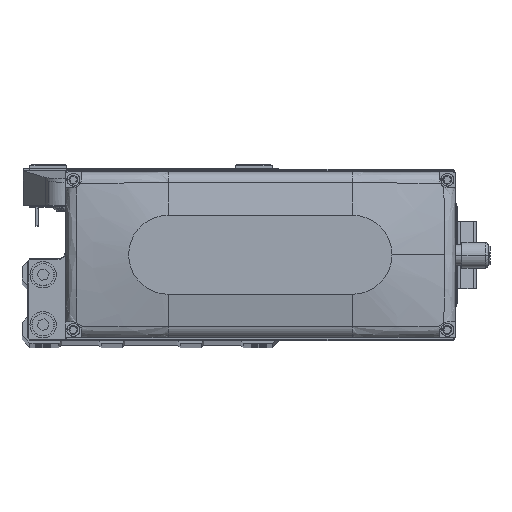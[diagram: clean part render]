
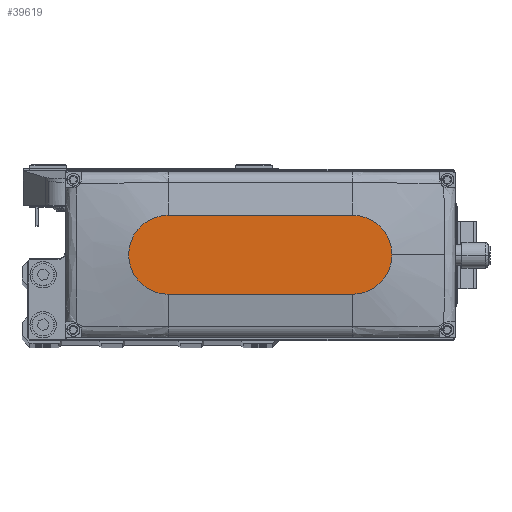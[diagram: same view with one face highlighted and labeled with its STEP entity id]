
A CAD part, top view. The second image highlights one B-rep face of the part: STEP entity #39619.
In plain terms, the highlighted planar face has unit normal (0, 0, 1).
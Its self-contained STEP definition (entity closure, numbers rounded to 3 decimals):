
#1112 = FACE_OUTER_BOUND ( 'NONE', #12557, .T. ) ;
#1825 = CARTESIAN_POINT ( 'NONE',  ( -35., -15., 35. ) ) ;
#2855 = CARTESIAN_POINT ( 'NONE',  ( -35., 15., 35. ) ) ;
#3326 = ORIENTED_EDGE ( 'NONE', *, *, #25744, .T. ) ;
#3568 = EDGE_CURVE ( 'NONE', #27415, #31827, #5936, .T. ) ;
#5936 = LINE ( 'NONE', #20624, #39851 ) ;
#6834 = CIRCLE ( 'NONE', #33700, 15. ) ;
#9095 = DIRECTION ( 'NONE',  ( 1., 0., 0. ) ) ;
#9317 = DIRECTION ( 'NONE',  ( 0., 0., 1. ) ) ;
#10360 = CARTESIAN_POINT ( 'NONE',  ( 35., 0., 35. ) ) ;
#12023 = CARTESIAN_POINT ( 'NONE',  ( 50., 0., 35. ) ) ;
#12156 = DIRECTION ( 'NONE',  ( 1., 0., 0. ) ) ;
#12557 = EDGE_LOOP ( 'NONE', ( #41478, #39975, #41097, #3326, #31155 ) ) ;
#13623 = VERTEX_POINT ( 'NONE', #12023 ) ;
#15767 = PLANE ( 'NONE',  #26029 ) ;
#16439 = VERTEX_POINT ( 'NONE', #20848 ) ;
#16480 = DIRECTION ( 'NONE',  ( 1., 0., 0. ) ) ;
#17984 = EDGE_CURVE ( 'NONE', #30726, #16439, #34713, .T. ) ;
#18153 = CIRCLE ( 'NONE', #45001, 15. ) ;
#19665 = AXIS2_PLACEMENT_3D ( 'NONE', #10360, #25021, #39656 ) ;
#20624 = CARTESIAN_POINT ( 'NONE',  ( -35., 15., 35. ) ) ;
#20848 = CARTESIAN_POINT ( 'NONE',  ( 35., -15., 35. ) ) ;
#23978 = DIRECTION ( 'NONE',  ( 1., 0., 0. ) ) ;
#25021 = DIRECTION ( 'NONE',  ( 0., 0., 1. ) ) ;
#25359 = CARTESIAN_POINT ( 'NONE',  ( -35., -15., 35. ) ) ;
#25744 = EDGE_CURVE ( 'NONE', #16439, #13623, #40351, .T. ) ;
#26029 = AXIS2_PLACEMENT_3D ( 'NONE', #30398, #45068, #12156 ) ;
#26078 = EDGE_CURVE ( 'NONE', #13623, #27415, #18153, .T. ) ;
#27368 = CARTESIAN_POINT ( 'NONE',  ( 35., 0., 35. ) ) ;
#27415 = VERTEX_POINT ( 'NONE', #28567 ) ;
#28567 = CARTESIAN_POINT ( 'NONE',  ( 35., 15., 35. ) ) ;
#28899 = EDGE_CURVE ( 'NONE', #31827, #30726, #6834, .T. ) ;
#30398 = CARTESIAN_POINT ( 'NONE',  ( 0., 0., 35. ) ) ;
#30726 = VERTEX_POINT ( 'NONE', #25359 ) ;
#31155 = ORIENTED_EDGE ( 'NONE', *, *, #26078, .T. ) ;
#31827 = VERTEX_POINT ( 'NONE', #2855 ) ;
#33700 = AXIS2_PLACEMENT_3D ( 'NONE', #42221, #9317, #23978 ) ;
#33714 = VECTOR ( 'NONE', #16480, 1000. ) ;
#34713 = LINE ( 'NONE', #1825, #33714 ) ;
#35248 = DIRECTION ( 'NONE',  ( -1., 0., 0. ) ) ;
#39619 = ADVANCED_FACE ( 'NONE', ( #1112 ), #15767, .T. ) ;
#39656 = DIRECTION ( 'NONE',  ( 1., 0., 0. ) ) ;
#39851 = VECTOR ( 'NONE', #35248, 1000. ) ;
#39975 = ORIENTED_EDGE ( 'NONE', *, *, #28899, .T. ) ;
#40351 = CIRCLE ( 'NONE', #19665, 15. ) ;
#41097 = ORIENTED_EDGE ( 'NONE', *, *, #17984, .T. ) ;
#41478 = ORIENTED_EDGE ( 'NONE', *, *, #3568, .T. ) ;
#42007 = DIRECTION ( 'NONE',  ( 0., 0., 1. ) ) ;
#42221 = CARTESIAN_POINT ( 'NONE',  ( -35., 0., 35. ) ) ;
#45001 = AXIS2_PLACEMENT_3D ( 'NONE', #27368, #42007, #9095 ) ;
#45068 = DIRECTION ( 'NONE',  ( 0., 0., 1. ) ) ;
